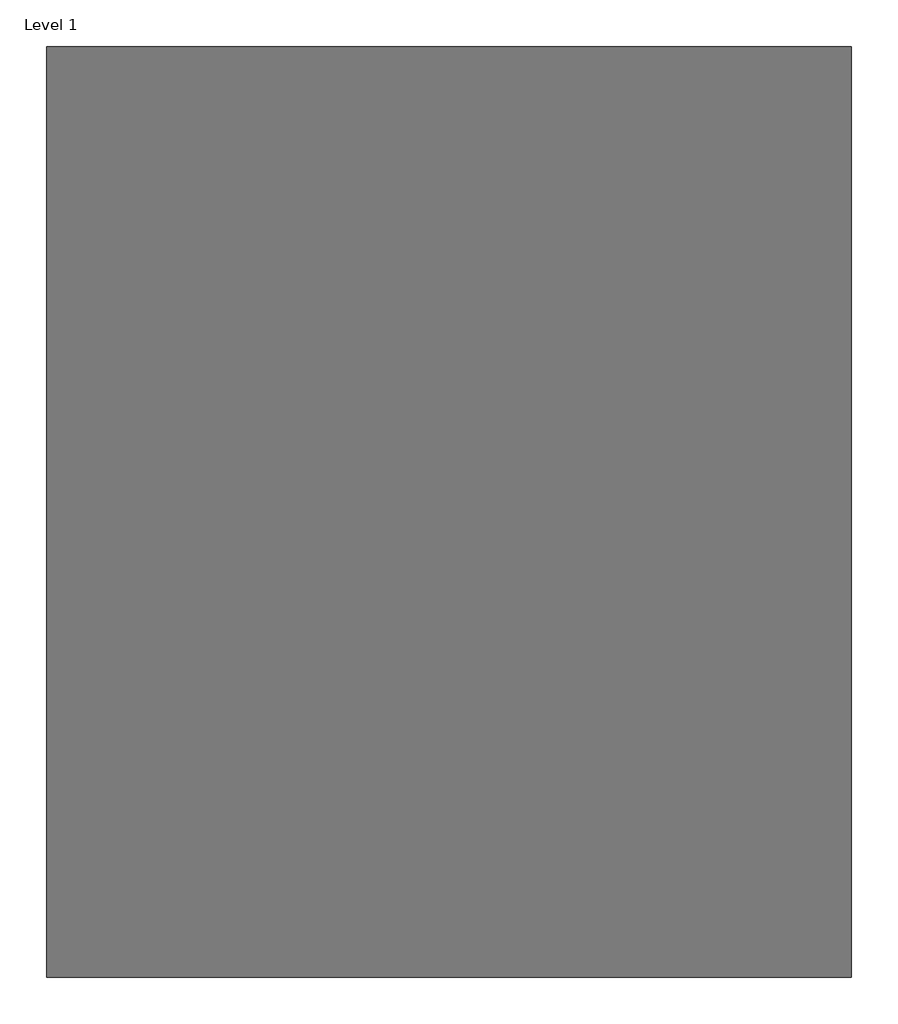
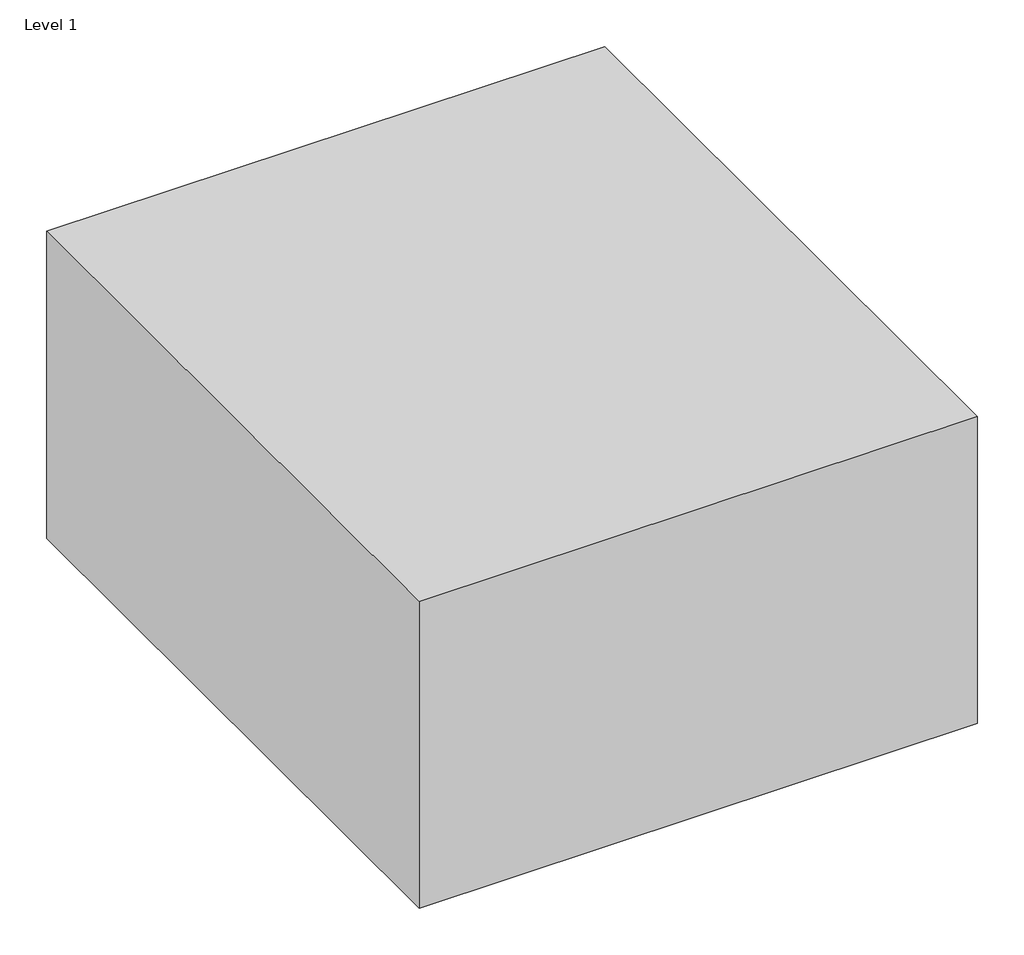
# One storey: 1 proxy.
"""IFC4 building model written with IfcOpenShell, lengths in millimetres."""

from ifc_helpers import new_model, si_unit, origin, origin_with_axes, place, context, project, spatial, polyline, outline, extrude, element, save

model = new_model("IFC4")

# Units and contexts
model_context = context("Model", 3, world=origin())
ifc_project = project(units=[si_unit("LENGTHUNIT", "METRE", prefix="MILLI")], contexts=[model_context])

# Site, building, storey
site = spatial("IfcSite", under=ifc_project)
building = spatial("IfcBuilding", under=site)
storey = spatial("IfcBuildingStorey", under=building, Name="Level 1", Elevation=0.0)

# Proxy
placement = place(None, origin())
element("IfcBuildingElementProxy", 1, Name="Mass 1 : Mass 1", ObjectType="Mass 1 : Mass 1", at=placement, inside=storey, context=model_context, shape_type="SweptSolid", body=[
    extrude(outline(polyline([(10243.86091, 390.7638359), (-2380.5660902, 390.7638359), (-2380.5660902, 14987.0199662), (10243.86091, 14987.0199662), (10243.86091, 390.7638359)])), origin_with_axes(), (0.0, 0.0, 1.0), 7344.4900901),
])

save(model, "model.ifc")
